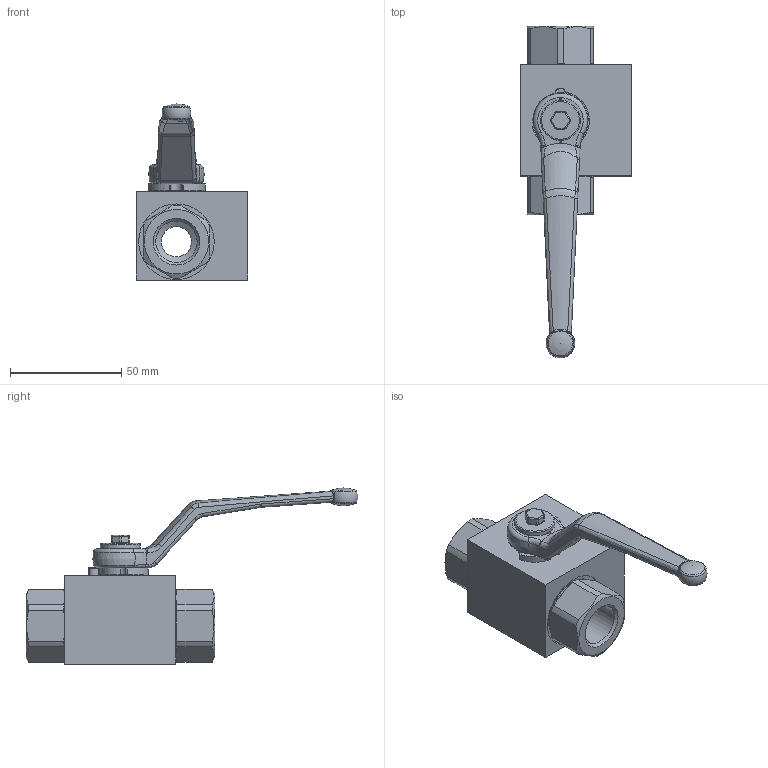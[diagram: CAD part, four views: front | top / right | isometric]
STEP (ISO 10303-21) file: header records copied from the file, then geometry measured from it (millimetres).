
FILE_DESCRIPTION( ( 'Unknown' ), '1' );
FILE_NAME( 'H:/PISTER/3D-MODELLE/BK3-Edelstahl stp/BK3-Edelst DN13 G1_2.stp', 'Unknown', ( 'Unknown' ), ( 'Unknown' ), 'PSStep 14.0', 'Unknown', ' ' );
FILE_SCHEMA( ( 'AUTOMOTIVE_DESIGN { 1 0 10303 214 1 1 1 1 }' ) );
Length unit declared in the file: millimetre
Products named in the file (10): Assem1; 09-09-003; 58-28740-16-oa2; 58-0440-009; 58-0933-235; 03-013-004-oa4; 04-013-040-oa5; 56-032-005-oa10; Griff_SW9; 01-013-039-oa11
Assembly tree (9 placements, depth 2):
  Assem1
    09-09-003
    58-28740-16-oa2
    58-0440-009
    58-0933-235
    03-013-004-oa4
    04-013-040-oa5
    56-032-005-oa10
    Griff_SW9
    01-013-039-oa11
Bounding box: 50 x 149.5 x 79.3 mm (x, y, z)
Volume: 89733.8 mm3; surface area: 34102.8 mm2
Topology: 9 solids, 9 shells, 304 faces, 771 edges, 490 vertices
Faces by surface type: plane 110, cylinder 105, bspline 36, torus 28, cone 21, sphere 4
Full cylindrical faces by diameter (mm): 4.2 x1, 4.98 x1, 5 x1, 5.8 x1, 14 x2, 18 x1, 18.63 x2, 18.631 x1, 18.9 x3, 26 x1, 28 x1, 29 x3, 29.5 x2, 34 x2
Entity records: 13190 total; most frequent: CARTESIAN_POINT 3918, DIRECTION 1405, ORIENTED_EDGE 1394, EDGE_CURVE 697, AXIS2_PLACEMENT_3D 562, VERTEX_POINT 460, EDGE_LOOP 370, FACE_OUTER_BOUND 330
